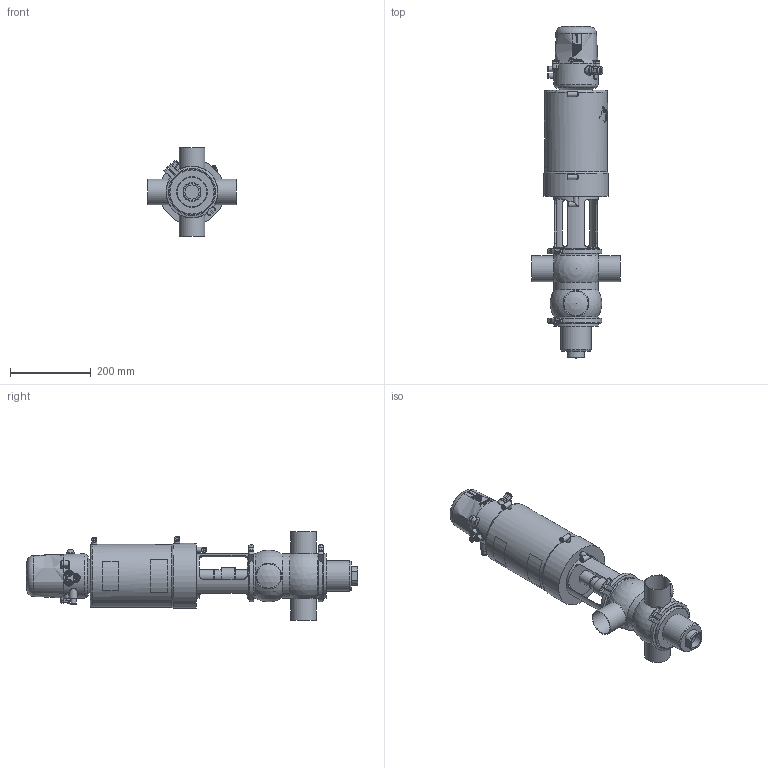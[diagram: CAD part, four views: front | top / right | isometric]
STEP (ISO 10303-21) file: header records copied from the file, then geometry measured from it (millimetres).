
FILE_DESCRIPTION (( 'STEP AP214' ), '1' );
FILE_NAME ('INNOVA P CB-90 W OD 2½ & C-TOP S_10.250.16.0015.STEP', '2024-08-09T11:47:32', ( '' ), ( '' ), 'SwSTEP 2.0', 'SolidWorks 2023', '' );
FILE_SCHEMA (( 'AUTOMOTIVE_DESIGN' ));
Length unit declared in the file: millimetre
Products named in the file (7): 10.251.15.0007_OD 2½"; 10.240.15.0001_DN 065; 10.426.15.0001_C-TOP S - 3 EV; 10.250.15.0002_Type P T2; 10.250.15.0001_OD 2½"; 10.250.15.0003_DN 2½"; INNOVA P CB-90 W OD 2½ & C-TOP S_10.250.16.0015
Assembly tree (7 placements, depth 2):
  INNOVA P CB-90 W OD 2½ & C-TOP S_10.250.16.0015
    10.250.15.0001_OD 2½"
    10.250.15.0002_Type P T2
    10.426.15.0001_C-TOP S - 3 EV
    10.251.15.0007_OD 2½"
    10.240.15.0001_DN 065  x2
    10.250.15.0003_DN 2½"
Bounding box: 220 x 821.8 x 220 mm (x, y, z)
Volume: 9351701.8 mm3; surface area: 608380.9 mm2
Topology: 7 solids, 7 shells, 1210 faces, 2908 edges, 1934 vertices
Faces by surface type: plane 414, cylinder 387, cone 204, bspline 162, torus 33, sphere 10
Full cylindrical faces by diameter (mm): 0.371 x17, 0.512 x16, 0.658 x16, 0.795 x16, 0.94 x15, 1.098 x15, 1.241 x13, 1.382 x13, 1.523 x11, 1.669 x10, 2.201 x1, 4.2 x2, 5 x1, 5.5 x2, 6 x4, 6.15 x3, 8 x5, 10 x1, 10.5 x3, 11 x4, 12.5 x9, 13 x6, 13.5 x2, 17 x3, 20 x2, 22 x2, 30.5 x2, 32 x1, 35 x1, 41 x1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
Entity records: 60189 total; most frequent: CARTESIAN_POINT 28676, ORIENTED_EDGE 4612, DIRECTION 3777, EDGE_CURVE 2306, VERTEX_POINT 1648, EDGE_LOOP 1640, AXIS2_PLACEMENT_3D 1558, FACE_OUTER_BOUND 1383
